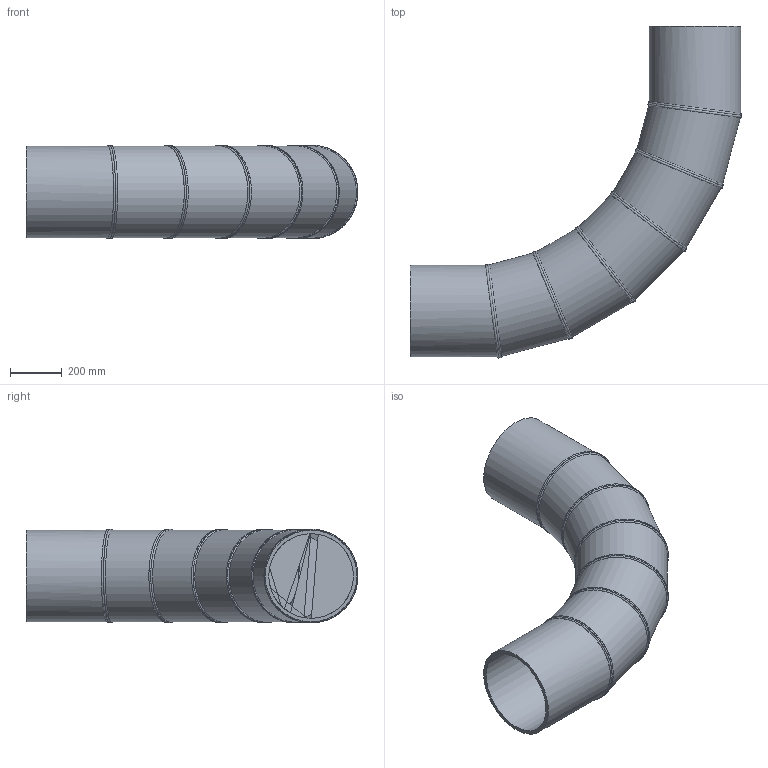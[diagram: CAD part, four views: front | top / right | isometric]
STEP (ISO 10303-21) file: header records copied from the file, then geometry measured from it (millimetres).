
FILE_DESCRIPTION(/* description */ ('Unknown'),/* implementation_level */ '2;1');
FILE_NAME(/* name */ 'Curva 90° a settore DE355 SDR26',/* time_stamp */ '2022-07-27T09:49:48+02:00',/* author */ ('Unknown'),/* organization */ ('Unknown'),/* preprocessor_version */ 'ST-DEVELOPER v18.102',/* originating_system */ 'Solid Edge',/* authorisation */ 'Unknown');
FILE_SCHEMA (('AUTOMOTIVE_DESIGN {1 0 10303 214 3 1 1}'));
Length unit declared in the file: millimetre
Products named in the file (3): Curva 90° a settore DE355 SDR26; Tubo x Gomito 90° DE355 SDR26 - 2; Tubo x Gomito 90° DE355 SDR26 - 1
Assembly tree (7 placements, depth 2):
  Curva 90° a settore DE355 SDR26
    Tubo x Gomito 90° DE355 SDR26 - 2  x5
    Tubo x Gomito 90° DE355 SDR26 - 1  x2
Bounding box: 1285.58 x 1285.58 x 362.99 mm (x, y, z)
Volume: 27041098.8 mm3; surface area: 4195902.2 mm2
Topology: 7 solids, 7 shells, 64 faces, 143 edges, 93 vertices
Faces by surface type: cylinder 38, plane 14, bspline 12
Full cylindrical faces by diameter (mm): 327.8 x7, 355 x7
Entity records: 2373 total; most frequent: CARTESIAN_POINT 1950, DIRECTION 78, ORIENTED_EDGE 52, AXIS2_PLACEMENT_3D 39, EDGE_LOOP 28, FACE_BOUND 28, EDGE_CURVE 26, VERTEX_POINT 20
